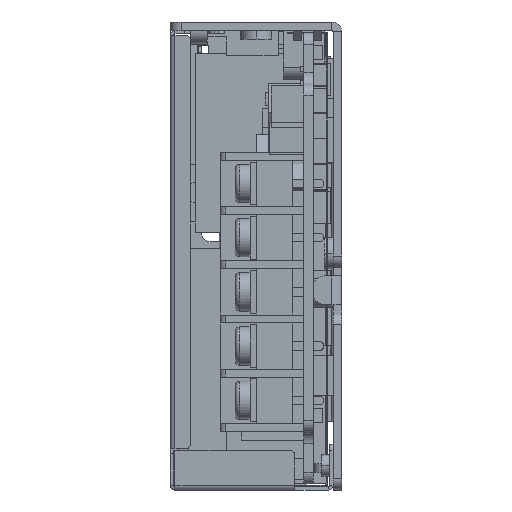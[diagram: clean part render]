
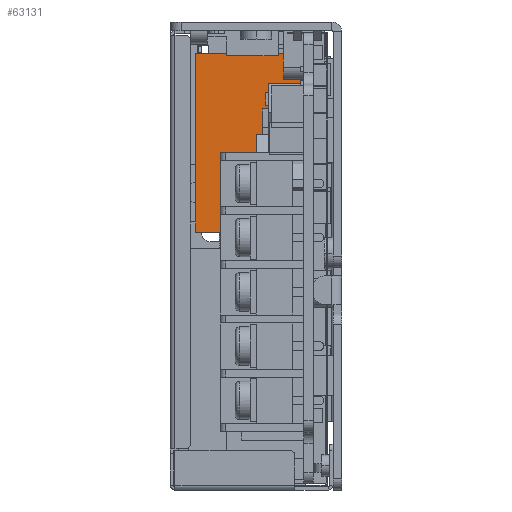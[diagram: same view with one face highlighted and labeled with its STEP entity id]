
A CAD part, left-side view. The second image highlights one B-rep face of the part: STEP entity #63131.
In plain terms, the highlighted planar face has unit normal (-1, 0, 0).
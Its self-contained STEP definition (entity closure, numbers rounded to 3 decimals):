
#63012=DIRECTION('',(0.,-1.,0.));
#63013=VECTOR('',#63012,19.);
#63014=CARTESIAN_POINT('',(-8.021,25.6,4.198));
#63015=LINE('',#63014,#63013);
#63032=DIRECTION('',(0.,0.,-1.));
#63033=VECTOR('',#63032,31.327);
#63034=CARTESIAN_POINT('',(-8.021,6.6,35.524));
#63035=LINE('',#63034,#63033);
#63036=DIRECTION('',(0.,-1.,0.));
#63037=VECTOR('',#63036,19.);
#63038=CARTESIAN_POINT('',(-8.021,25.6,35.524));
#63039=LINE('',#63038,#63037);
#63052=DIRECTION('',(0.,0.,-1.));
#63053=VECTOR('',#63052,31.327);
#63054=CARTESIAN_POINT('',(-8.021,25.6,35.524));
#63055=LINE('',#63054,#63053);
#63056=CARTESIAN_POINT('',(-8.021,6.6,4.198));
#63058=VERTEX_POINT('',#63056);
#63060=CARTESIAN_POINT('',(-8.021,6.6,35.524));
#63061=VERTEX_POINT('',#63060);
#63066=CARTESIAN_POINT('',(-8.021,25.6,4.198));
#63067=VERTEX_POINT('',#63066);
#63070=CARTESIAN_POINT('',(-8.021,25.6,35.524));
#63071=VERTEX_POINT('',#63070);
#63118=CARTESIAN_POINT('',(-8.021,6.6,4.198));
#63119=DIRECTION('',(-1.,0.,0.));
#63120=DIRECTION('',(0.,0.,1.));
#63121=AXIS2_PLACEMENT_3D('',#63118,#63119,#63120);
#63122=PLANE('',#63121);
#63124=ORIENTED_EDGE('',*,*,#63123,.T.);
#63125=ORIENTED_EDGE('',*,*,#63083,.F.);
#63127=ORIENTED_EDGE('',*,*,#63126,.F.);
#63128=ORIENTED_EDGE('',*,*,#63110,.T.);
#63129=EDGE_LOOP('',(#63124,#63125,#63127,#63128));
#63130=FACE_OUTER_BOUND('',#63129,.F.);
#63083=EDGE_CURVE('',#63067,#63058,#63015,.T.);
#63110=EDGE_CURVE('',#63071,#63061,#63039,.T.);
#63123=EDGE_CURVE('',#63061,#63058,#63035,.T.);
#63126=EDGE_CURVE('',#63071,#63067,#63055,.T.);
#63131=ADVANCED_FACE('',(#63130),#63122,.T.);
